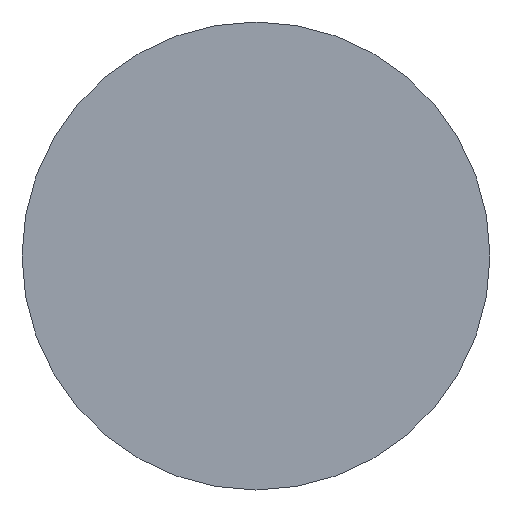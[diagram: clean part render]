
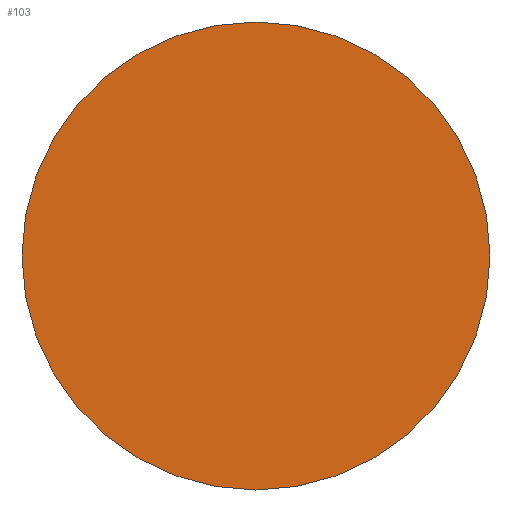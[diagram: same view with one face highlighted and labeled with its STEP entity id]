
A CAD part, left-side view. The second image highlights one B-rep face of the part: STEP entity #103.
In plain terms, the highlighted planar face has unit normal (-1, 0, 0).
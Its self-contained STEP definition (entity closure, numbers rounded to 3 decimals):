
#8 = VERTEX_POINT ( 'NONE', #35 ) ;
#9 = CARTESIAN_POINT ( 'NONE',  ( -342., 0., 0. ) ) ;
#10 = CARTESIAN_POINT ( 'NONE',  ( -342., 0., 0. ) ) ;
#11 = DIRECTION ( 'NONE',  ( -1., 0., 0. ) ) ;
#21 = DIRECTION ( 'NONE',  ( -1., 0., 0. ) ) ;
#23 = DIRECTION ( 'NONE',  ( 0., 0., 1. ) ) ;
#24 = DIRECTION ( 'NONE',  ( 0., 0., 1. ) ) ;
#32 = VERTEX_POINT ( 'NONE', #34 ) ;
#34 = CARTESIAN_POINT ( 'NONE',  ( -342., 0., 5.5 ) ) ;
#35 = CARTESIAN_POINT ( 'NONE',  ( -342., 0., -5.5 ) ) ;
#41 = AXIS2_PLACEMENT_3D ( 'NONE', #9, #21, #23 ) ;
#43 = EDGE_CURVE ( 'NONE', #32, #8, #88, .T. ) ;
#45 = AXIS2_PLACEMENT_3D ( 'NONE', #126, #125, #124 ) ;
#47 = EDGE_CURVE ( 'NONE', #8, #32, #91, .T. ) ;
#56 = AXIS2_PLACEMENT_3D ( 'NONE', #10, #11, #24 ) ;
#62 = ORIENTED_EDGE ( 'NONE', *, *, #47, .T. ) ;
#67 = EDGE_LOOP ( 'NONE', ( #83, #62 ) ) ;
#74 = FACE_OUTER_BOUND ( 'NONE', #67, .T. ) ;
#83 = ORIENTED_EDGE ( 'NONE', *, *, #43, .T. ) ;
#88 = CIRCLE ( 'NONE', #56, 5.5 ) ;
#91 = CIRCLE ( 'NONE', #41, 5.5 ) ;
#103 = ADVANCED_FACE ( 'NONE', ( #74 ), #127, .T. ) ;
#124 = DIRECTION ( 'NONE',  ( 0., 0., 1. ) ) ;
#125 = DIRECTION ( 'NONE',  ( -1., 0., 0. ) ) ;
#126 = CARTESIAN_POINT ( 'NONE',  ( -342., 0., 0. ) ) ;
#127 = PLANE ( 'NONE',  #45 ) ;
